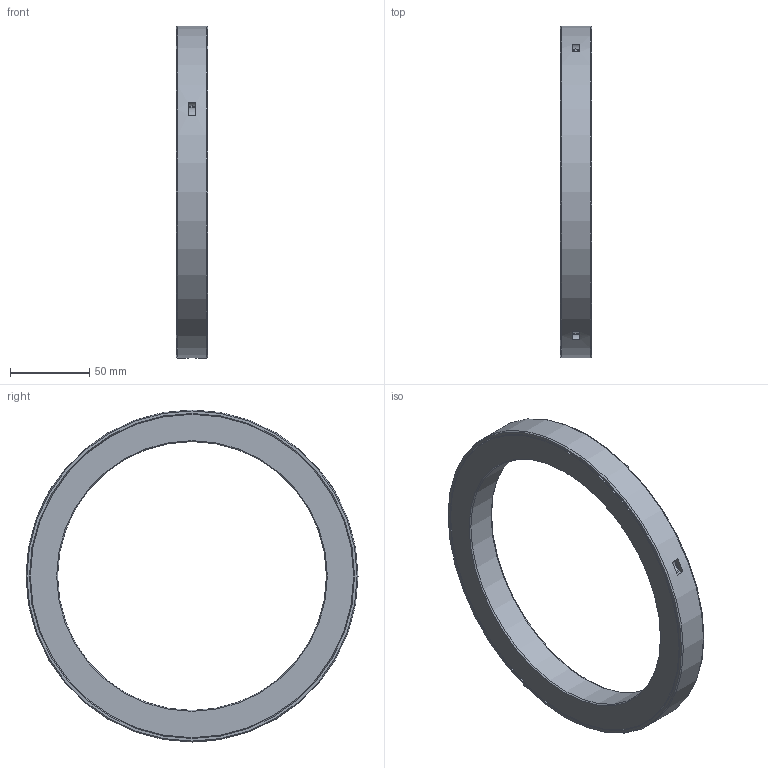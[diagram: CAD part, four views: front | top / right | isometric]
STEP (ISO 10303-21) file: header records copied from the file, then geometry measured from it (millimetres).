
FILE_DESCRIPTION(/* description */ (''),/* implementation_level */ '2;1');
FILE_NAME(/* name */ '301460 M 170x210x20.stp',/* time_stamp */ '2016-12-15T12:23:40+01:00',/* author */ (''),/* organization */ (''),/* preprocessor_version */ 'ST-DEVELOPER v15',/* originating_system */ 'SIEMENS PLM Software NX 8.5',/* authorisation */ '');
FILE_SCHEMA (('CONFIG_CONTROL_DESIGN'));
Length unit declared in the file: millimetre
Products named in the file (1): ATE0000124_01
Bounding box: 20 x 210 x 210 mm (x, y, z)
Volume: 230994.9 mm3; surface area: 72588.7 mm2
Topology: 2 solids, 2 shells, 39 faces, 111 edges, 72 vertices
Faces by surface type: plane 16, cone 12, cylinder 11
Full cylindrical faces by diameter (mm): 170 x1, 210 x1
Entity records: 1274 total; most frequent: CARTESIAN_POINT 264, DIRECTION 202, ORIENTED_EDGE 176, AXIS2_PLACEMENT_3D 98, EDGE_CURVE 88, VERTEX_POINT 64, EDGE_LOOP 60, CIRCLE 58
